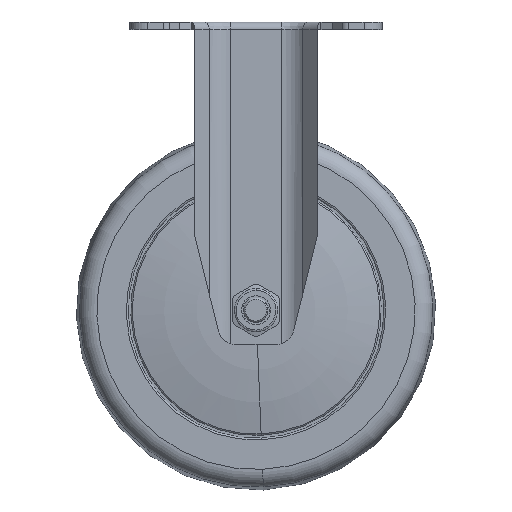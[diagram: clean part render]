
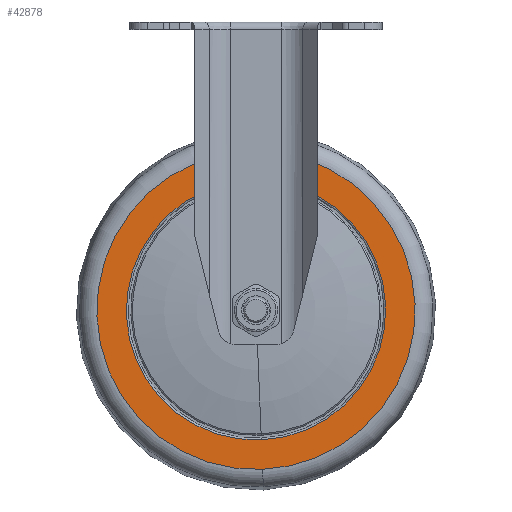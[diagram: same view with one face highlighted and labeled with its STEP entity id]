
A CAD part, top view. The second image highlights one B-rep face of the part: STEP entity #42878.
In plain terms, the highlighted planar face has unit normal (0, 0, 1).
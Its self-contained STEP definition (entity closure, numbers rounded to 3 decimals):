
#1562 = CIRCLE ( 'NONE', #45269, 36. ) ;
#2138 = CARTESIAN_POINT ( 'NONE',  ( 0., 0., 12.5 ) ) ;
#3656 = DIRECTION ( 'NONE',  ( 0., 1., 0. ) ) ;
#6344 = DIRECTION ( 'NONE',  ( 0., 1., 0. ) ) ;
#9110 = DIRECTION ( 'NONE',  ( 0., 1., 0. ) ) ;
#13303 = CIRCLE ( 'NONE', #84576, 44.187 ) ;
#14814 = DIRECTION ( 'NONE',  ( 0., -1., 0. ) ) ;
#16335 = CARTESIAN_POINT ( 'NONE',  ( 0., 44.187, 12.5 ) ) ;
#17069 = FACE_BOUND ( 'NONE', #21741, .T. ) ;
#18557 = EDGE_CURVE ( 'NONE', #65965, #58252, #1562, .T. ) ;
#21741 = EDGE_LOOP ( 'NONE', ( #22333, #74156 ) ) ;
#22333 = ORIENTED_EDGE ( 'NONE', *, *, #64207, .T. ) ;
#22941 = CARTESIAN_POINT ( 'NONE',  ( 0., -36., 12.5 ) ) ;
#23332 = AXIS2_PLACEMENT_3D ( 'NONE', #29207, #82009, #9110 ) ;
#28584 = CARTESIAN_POINT ( 'NONE',  ( 0., 36., 12.5 ) ) ;
#29207 = CARTESIAN_POINT ( 'NONE',  ( 0., 0., 12.5 ) ) ;
#32301 = CIRCLE ( 'NONE', #23332, 44.187 ) ;
#35167 = DIRECTION ( 'NONE',  ( 0., 1., 0. ) ) ;
#42878 = ADVANCED_FACE ( 'NONE', ( #17069, #61264 ), #73663, .T. ) ;
#45269 = AXIS2_PLACEMENT_3D ( 'NONE', #2138, #48108, #35167 ) ;
#46364 = AXIS2_PLACEMENT_3D ( 'NONE', #28584, #61337, #14814 ) ;
#48108 = DIRECTION ( 'NONE',  ( 0., 0., -1. ) ) ;
#49069 = CARTESIAN_POINT ( 'NONE',  ( 0., -44.187, 12.5 ) ) ;
#50173 = DIRECTION ( 'NONE',  ( 0., 0., -1. ) ) ;
#50417 = EDGE_CURVE ( 'NONE', #64611, #64848, #32301, .T. ) ;
#57788 = CIRCLE ( 'NONE', #66843, 36. ) ;
#58252 = VERTEX_POINT ( 'NONE', #73981 ) ;
#59756 = DIRECTION ( 'NONE',  ( 0., 0., -1. ) ) ;
#61264 = FACE_OUTER_BOUND ( 'NONE', #69627, .T. ) ;
#61337 = DIRECTION ( 'NONE',  ( 0., 0., 1. ) ) ;
#63479 = ORIENTED_EDGE ( 'NONE', *, *, #50417, .F. ) ;
#64207 = EDGE_CURVE ( 'NONE', #58252, #65965, #57788, .T. ) ;
#64611 = VERTEX_POINT ( 'NONE', #16335 ) ;
#64848 = VERTEX_POINT ( 'NONE', #49069 ) ;
#65965 = VERTEX_POINT ( 'NONE', #22941 ) ;
#66843 = AXIS2_PLACEMENT_3D ( 'NONE', #75750, #50173, #3656 ) ;
#68275 = ORIENTED_EDGE ( 'NONE', *, *, #83500, .F. ) ;
#69627 = EDGE_LOOP ( 'NONE', ( #63479, #68275 ) ) ;
#73663 = PLANE ( 'NONE',  #46364 ) ;
#73981 = CARTESIAN_POINT ( 'NONE',  ( 0., 36., 12.5 ) ) ;
#74156 = ORIENTED_EDGE ( 'NONE', *, *, #18557, .T. ) ;
#75750 = CARTESIAN_POINT ( 'NONE',  ( 0., 0., 12.5 ) ) ;
#79290 = CARTESIAN_POINT ( 'NONE',  ( 0., 0., 12.5 ) ) ;
#82009 = DIRECTION ( 'NONE',  ( 0., 0., -1. ) ) ;
#83500 = EDGE_CURVE ( 'NONE', #64848, #64611, #13303, .T. ) ;
#84576 = AXIS2_PLACEMENT_3D ( 'NONE', #79290, #59756, #6344 ) ;
